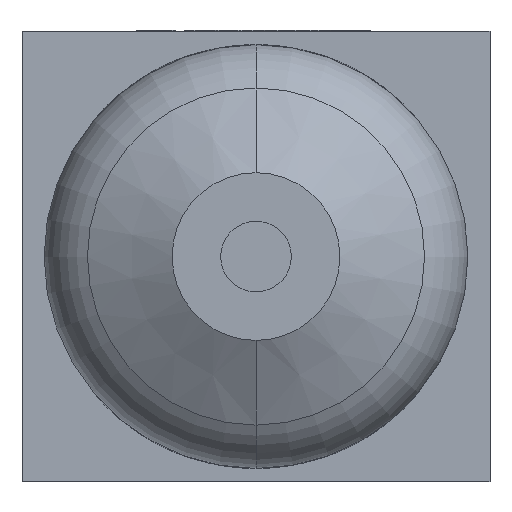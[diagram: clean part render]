
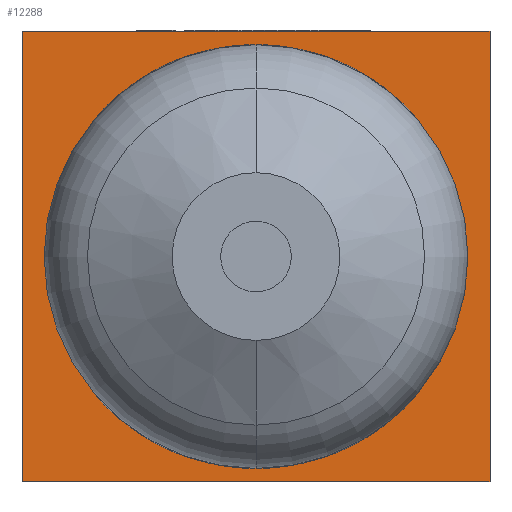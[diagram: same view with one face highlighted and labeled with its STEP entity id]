
A CAD part, front view. The second image highlights one B-rep face of the part: STEP entity #12288.
In plain terms, the highlighted planar face has unit normal (0, -1, 0).
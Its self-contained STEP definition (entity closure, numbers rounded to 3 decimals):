
#2409 = CARTESIAN_POINT ( 'NONE',  ( -26.5, -25.5, 25.5 ) ) ;
#2457 = CARTESIAN_POINT ( 'NONE',  ( -26.5, -25.5, 25.5 ) ) ;
#2508 = VECTOR ( 'NONE', #10341, 1000. ) ;
#3338 = CARTESIAN_POINT ( 'NONE',  ( -26.5, -25.5, 25.5 ) ) ;
#3465 = VERTEX_POINT ( 'NONE', #17114 ) ;
#3810 = FACE_OUTER_BOUND ( 'NONE', #11444, .T. ) ;
#4335 = VERTEX_POINT ( 'NONE', #17388 ) ;
#4407 = VECTOR ( 'NONE', #20767, 1000. ) ;
#4654 = ORIENTED_EDGE ( 'NONE', *, *, #10289, .T. ) ;
#5199 = DIRECTION ( 'NONE',  ( 0., 1., 0. ) ) ;
#6113 = EDGE_CURVE ( 'NONE', #4335, #3465, #11400, .T. ) ;
#7600 = DIRECTION ( 'NONE',  ( 0., 0., -1. ) ) ;
#7943 = DIRECTION ( 'NONE',  ( -1., 0., 0. ) ) ;
#8981 = PLANE ( 'NONE',  #21072 ) ;
#10289 = EDGE_CURVE ( 'NONE', #11542, #10715, #12621, .T. ) ;
#10341 = DIRECTION ( 'NONE',  ( 1., 0., 0. ) ) ;
#10715 = VERTEX_POINT ( 'NONE', #15899 ) ;
#11039 = CARTESIAN_POINT ( 'NONE',  ( 26.5, -25.5, 25.5 ) ) ;
#11166 = LINE ( 'NONE', #16002, #4407 ) ;
#11400 = LINE ( 'NONE', #11039, #15164 ) ;
#11444 = EDGE_LOOP ( 'NONE', ( #16866, #20117, #17249, #4654 ) ) ;
#11542 = VERTEX_POINT ( 'NONE', #2409 ) ;
#12288 = ADVANCED_FACE ( 'NONE', ( #3810 ), #8981, .F. ) ;
#12434 = CARTESIAN_POINT ( 'NONE',  ( -26.5, -25.5, 25.5 ) ) ;
#12621 = LINE ( 'NONE', #3338, #18932 ) ;
#15164 = VECTOR ( 'NONE', #7600, 1000. ) ;
#15405 = DIRECTION ( 'NONE',  ( 0., 0., -1. ) ) ;
#15899 = CARTESIAN_POINT ( 'NONE',  ( -26.5, -25.5, -25.5 ) ) ;
#16002 = CARTESIAN_POINT ( 'NONE',  ( -26.5, -25.5, -25.5 ) ) ;
#16866 = ORIENTED_EDGE ( 'NONE', *, *, #18072, .T. ) ;
#17114 = CARTESIAN_POINT ( 'NONE',  ( 26.5, -25.5, -25.5 ) ) ;
#17249 = ORIENTED_EDGE ( 'NONE', *, *, #20906, .F. ) ;
#17388 = CARTESIAN_POINT ( 'NONE',  ( 26.5, -25.5, 25.5 ) ) ;
#18072 = EDGE_CURVE ( 'NONE', #10715, #3465, #11166, .T. ) ;
#18932 = VECTOR ( 'NONE', #15405, 1000. ) ;
#19631 = LINE ( 'NONE', #12434, #2508 ) ;
#20117 = ORIENTED_EDGE ( 'NONE', *, *, #6113, .F. ) ;
#20767 = DIRECTION ( 'NONE',  ( 1., 0., 0. ) ) ;
#20906 = EDGE_CURVE ( 'NONE', #11542, #4335, #19631, .T. ) ;
#21072 = AXIS2_PLACEMENT_3D ( 'NONE', #2457, #5199, #7943 ) ;
